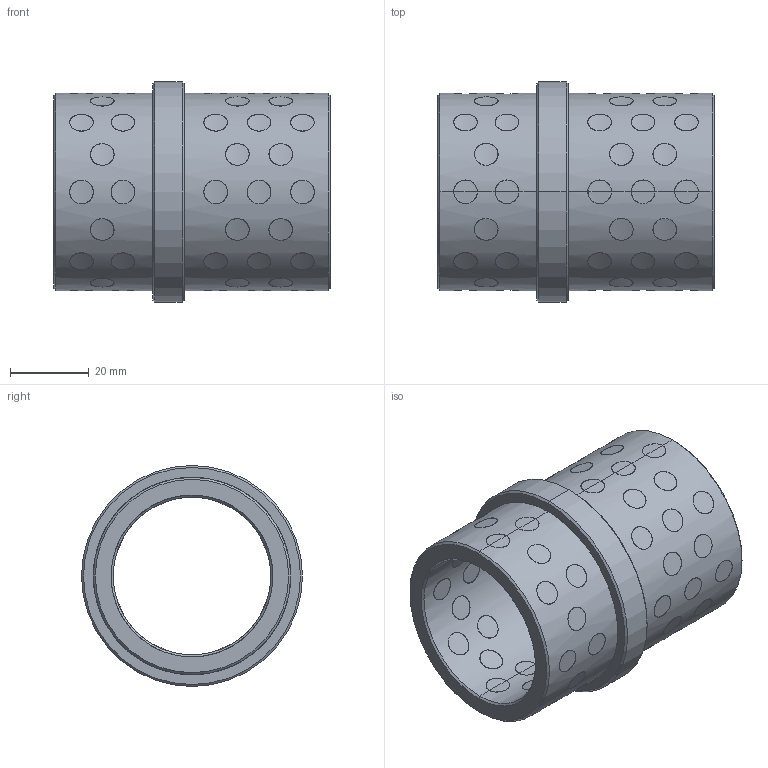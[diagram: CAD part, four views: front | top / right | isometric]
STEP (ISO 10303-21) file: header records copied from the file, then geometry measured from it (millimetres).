
FILE_DESCRIPTION(('CATIA V5 STEP Exchange'),'2;1');
FILE_NAME('C:\Users\Utente\Desktop\3D files G402\G4024045.stp','2020-04-22T08:44:26+00:00',('none'),('none'),'CATIA Version 5 Release 20 GA (IN-10)','CATIA V5 STEP AP203','none');
FILE_SCHEMA(('CONFIG_CONTROL_DESIGN'));
Products named in the file (1): G4024045
Bounding box: 70 x 56 x 56 mm (x, y, z)
Surface area: 34085.3 mm2 (no closed solid volume)
Topology: 0 solids, 428 shells, 428 faces, 1872 edges, 1872 vertices
Faces by surface type: cylinder 412, revolution 12, plane 4
Entity records: 45787 total; most frequent: CARTESIAN_POINT 32818, ORIENTED_EDGE 1872, EDGE_CURVE 1872, VERTEX_POINT 1872, DIRECTION 1523, B_SPLINE_CURVE_WITH_KNOTS 1205, VECTOR 632, LINE 632
